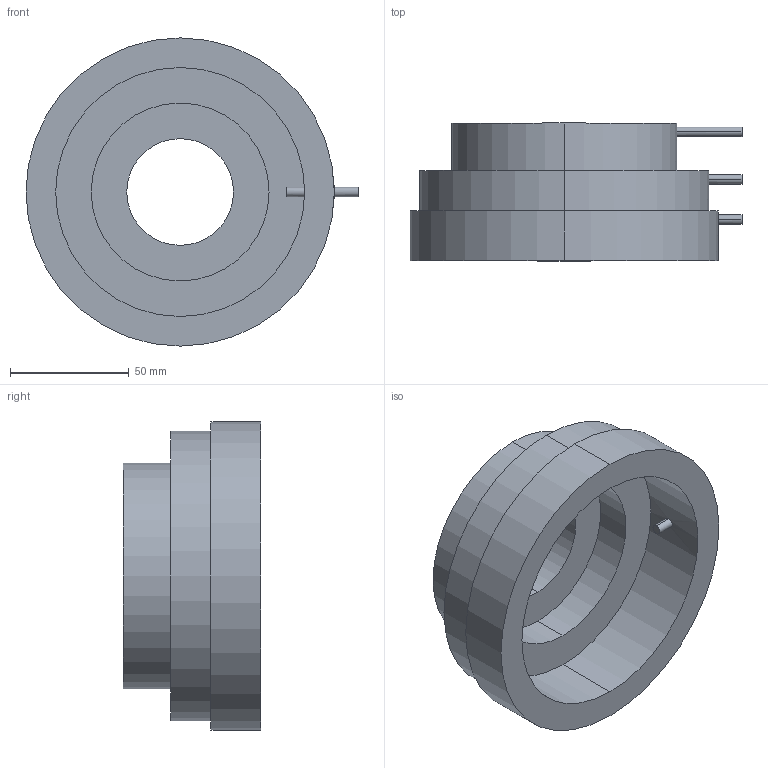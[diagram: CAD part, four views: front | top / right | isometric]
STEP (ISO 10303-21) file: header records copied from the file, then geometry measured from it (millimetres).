
FILE_DESCRIPTION (( 'STEP AP203' ), '1' );
FILE_NAME ('CRT-SAI13045-¼òÒ×3DÍ¼.STEP', '2022-01-11T03:57:57', ( 'Admin' ), ( '' ), 'SwSTEP 2.0', 'SolidWorks 2018', '' );
FILE_SCHEMA (( 'CONFIG_CONTROL_DESIGN' ));
Length unit declared in the file: millimetre
Products named in the file (1): CRT-SAI13045-潠眢3D芞
Bounding box: 140 x 58 x 130 mm (x, y, z)
Volume: 287262.1 mm3; surface area: 60267.3 mm2
Topology: 1 solids, 1 shells, 46 faces, 100 edges, 60 vertices
Faces by surface type: cylinder 28, plane 10, cone 8
Entity records: 1501 total; most frequent: CARTESIAN_POINT 423, DIRECTION 226, ORIENTED_EDGE 184, AXIS2_PLACEMENT_3D 95, EDGE_CURVE 92, VERTEX_POINT 60, EDGE_LOOP 60, CIRCLE 48
